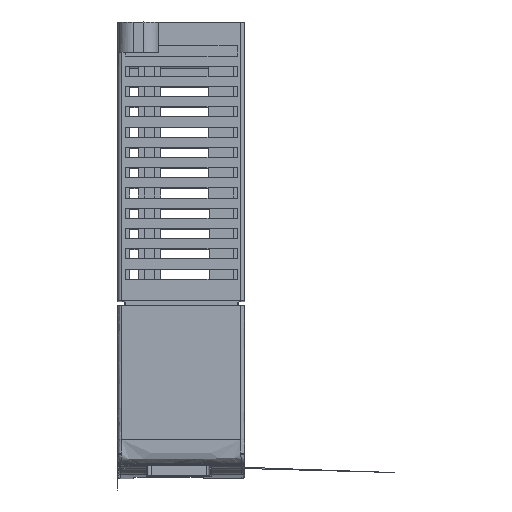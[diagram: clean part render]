
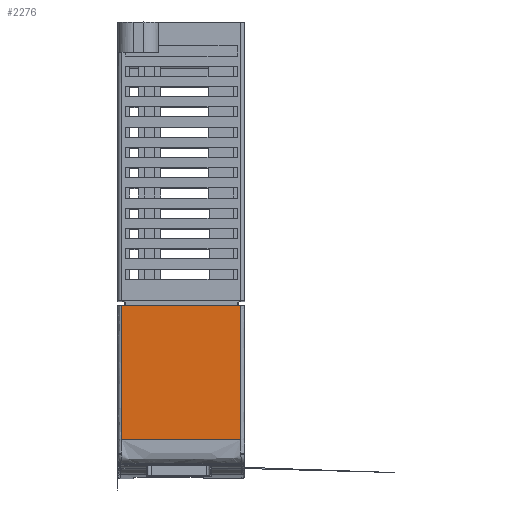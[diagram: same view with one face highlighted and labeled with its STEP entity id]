
A CAD part, top view. The second image highlights one B-rep face of the part: STEP entity #2276.
In plain terms, the highlighted planar face has unit normal (0, 0, 1).
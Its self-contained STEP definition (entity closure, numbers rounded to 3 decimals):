
#2276=ADVANCED_FACE('',(#16434),#16436,.F.);
#16434=FACE_BOUND('',#16435,.T.);
#16435=EDGE_LOOP('',(#99052,#99053,#99054,#99055,#99056));
#16436=PLANE('',#16437);
#16437=AXIS2_PLACEMENT_3D('',#16438,#16439,#16440);
#16438=CARTESIAN_POINT('',(-100.179,-274.821,50.));
#16439=DIRECTION('',(0.,0.,-1.));
#16440=DIRECTION('',(0.,1.,0.));
#99052=ORIENTED_EDGE('',*,*,#104874,.T.);
#99053=ORIENTED_EDGE('',*,*,#105080,.T.);
#99054=ORIENTED_EDGE('',*,*,#104622,.T.);
#99055=ORIENTED_EDGE('',*,*,#104621,.T.);
#99056=ORIENTED_EDGE('',*,*,#105101,.T.);
#104621=EDGE_CURVE('',#108227,#108225,#108228,.T.);
#104622=EDGE_CURVE('',#108201,#108227,#108229,.T.);
#104874=EDGE_CURVE('',#108620,#108640,#108642,.T.);
#105080=EDGE_CURVE('',#108640,#108201,#108972,.T.);
#105101=EDGE_CURVE('',#108225,#108620,#108998,.T.);
#108201=VERTEX_POINT('',#119970);
#108225=VERTEX_POINT('',#120043);
#108227=VERTEX_POINT('',#120049);
#108228=B_SPLINE_CURVE_WITH_KNOTS('',3,
(#120050,#120051,#120052,#120053,#120054,#120055,#120056,#120057,#120058,#120059,
#120060,#120061,#120062,#120063,#120064,#120065,#120066,#120067,#120068,#120069,
#120070,#120071,#120072,#120073,#120074,#120075,#120076,#120077,#120078,#120079,
#120080,#120081,#120082,#120083,#120084,#120085,#120086,#120087,#120088,#120089,
#120090,#120091,#120092),
.UNSPECIFIED.,.F.,.F.,
(4,1,1,1,1,1,1,1,1,1,1,1,1,1,1,1,1,1,1,1,1,1,1,1,1,1,1,1,1,1,1,1,1,1,1,1,1,1,1,1,
4),
(0.,0.005,0.014,0.025,0.039,
0.059,0.067,0.088,0.136,0.153,
0.216,0.292,0.333,0.447,0.524,
0.623,0.724,0.73,0.796,0.801,
0.802,0.803,0.804,0.806,0.809,
0.811,0.812,0.817,0.818,0.823,
0.83,0.841,0.85,0.854,0.873,
0.878,0.897,0.926,0.961,0.979,
1.),
.UNSPECIFIED.);
#108229=LINE('',#120093,#120094);
#108620=VERTEX_POINT('',#123103);
#108640=VERTEX_POINT('',#123300);
#108642=B_SPLINE_CURVE_WITH_KNOTS('',1,
(#123307,#123308),
.UNSPECIFIED.,.F.,.F.,
(2,2),
(0.,1.),
.UNSPECIFIED.);
#108972=B_SPLINE_CURVE_WITH_KNOTS('',1,
(#126584,#126585),
.UNSPECIFIED.,.F.,.F.,
(2,2),
(0.,1.),
.UNSPECIFIED.);
#108998=B_SPLINE_CURVE_WITH_KNOTS('',1,
(#126759,#126760),
.UNSPECIFIED.,.F.,.F.,
(2,2),
(0.,1.),
.UNSPECIFIED.);
#119970=CARTESIAN_POINT('',(-103.463,-244.764,50.));
#120043=CARTESIAN_POINT('',(-126.963,-244.764,50.));
#120049=CARTESIAN_POINT('',(-113.213,-244.764,50.));
#120050=CARTESIAN_POINT('',(-113.213,-244.764,50.));
#120051=CARTESIAN_POINT('',(-113.234,-244.764,50.));
#120052=CARTESIAN_POINT('',(-113.297,-244.764,50.));
#120053=CARTESIAN_POINT('',(-113.411,-244.764,50.));
#120054=CARTESIAN_POINT('',(-113.57,-244.764,50.));
#120055=CARTESIAN_POINT('',(-113.778,-244.764,50.));
#120056=CARTESIAN_POINT('',(-113.973,-244.764,50.));
#120057=CARTESIAN_POINT('',(-114.198,-244.764,50.));
#120058=CARTESIAN_POINT('',(-114.551,-244.764,50.));
#120059=CARTESIAN_POINT('',(-114.945,-244.764,50.));
#120060=CARTESIAN_POINT('',(-115.53,-244.764,50.));
#120061=CARTESIAN_POINT('',(-116.244,-244.764,50.));
#120062=CARTESIAN_POINT('',(-117.068,-244.764,50.));
#120063=CARTESIAN_POINT('',(-118.126,-244.764,50.));
#120064=CARTESIAN_POINT('',(-119.19,-244.764,50.));
#120065=CARTESIAN_POINT('',(-120.518,-244.764,50.));
#120066=CARTESIAN_POINT('',(-121.787,-244.764,50.));
#120067=CARTESIAN_POINT('',(-122.728,-244.764,50.));
#120068=CARTESIAN_POINT('',(-123.521,-244.764,50.));
#120069=CARTESIAN_POINT('',(-123.875,-244.764,50.));
#120070=CARTESIAN_POINT('',(-124.207,-244.764,50.));
#120071=CARTESIAN_POINT('',(-124.24,-244.764,50.));
#120072=CARTESIAN_POINT('',(-124.254,-244.764,50.));
#120073=CARTESIAN_POINT('',(-124.272,-244.764,50.));
#120074=CARTESIAN_POINT('',(-124.298,-244.764,50.));
#120075=CARTESIAN_POINT('',(-124.33,-244.764,50.));
#120076=CARTESIAN_POINT('',(-124.358,-244.764,50.));
#120077=CARTESIAN_POINT('',(-124.394,-244.764,50.));
#120078=CARTESIAN_POINT('',(-124.426,-244.764,50.));
#120079=CARTESIAN_POINT('',(-124.475,-244.764,50.));
#120080=CARTESIAN_POINT('',(-124.536,-244.764,50.));
#120081=CARTESIAN_POINT('',(-124.64,-244.764,50.));
#120082=CARTESIAN_POINT('',(-124.766,-244.764,50.));
#120083=CARTESIAN_POINT('',(-124.876,-244.764,50.));
#120084=CARTESIAN_POINT('',(-125.022,-244.764,50.));
#120085=CARTESIAN_POINT('',(-125.151,-244.764,50.));
#120086=CARTESIAN_POINT('',(-125.346,-244.764,50.));
#120087=CARTESIAN_POINT('',(-125.591,-244.764,50.));
#120088=CARTESIAN_POINT('',(-125.973,-244.764,50.));
#120089=CARTESIAN_POINT('',(-126.35,-244.764,50.));
#120090=CARTESIAN_POINT('',(-126.689,-244.764,50.));
#120091=CARTESIAN_POINT('',(-126.866,-244.764,50.));
#120092=CARTESIAN_POINT('',(-126.963,-244.764,50.));
#120093=CARTESIAN_POINT('',(-103.463,-244.764,50.));
#120094=VECTOR('',#120095,1.);
#120095=DIRECTION('',(-1.,0.,0.));
#123103=CARTESIAN_POINT('',(-126.963,-271.24,50.));
#123300=CARTESIAN_POINT('',(-103.463,-271.24,50.));
#123307=CARTESIAN_POINT('',(-126.963,-271.24,50.));
#123308=CARTESIAN_POINT('',(-103.463,-271.24,50.));
#126584=CARTESIAN_POINT('',(-103.463,-271.24,50.));
#126585=CARTESIAN_POINT('',(-103.463,-244.764,50.));
#126759=CARTESIAN_POINT('',(-126.963,-244.764,50.));
#126760=CARTESIAN_POINT('',(-126.963,-271.24,50.));
